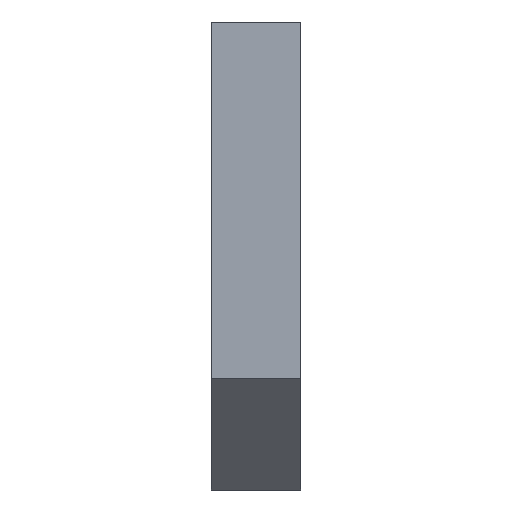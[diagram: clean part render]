
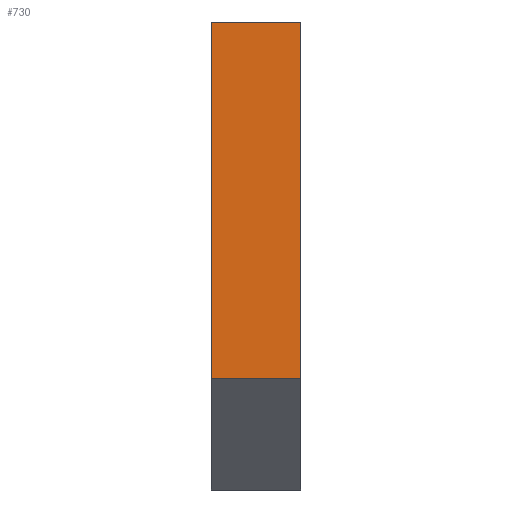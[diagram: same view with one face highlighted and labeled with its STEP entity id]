
A CAD part, left-side view. The second image highlights one B-rep face of the part: STEP entity #730.
In plain terms, the highlighted planar face has unit normal (-1, 0, 0).
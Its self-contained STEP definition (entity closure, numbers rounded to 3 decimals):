
#138 = EDGE_LOOP ( 'NONE', ( #147, #367, #1038, #1120 ) ) ;
#147 = ORIENTED_EDGE ( 'NONE', *, *, #1125, .F. ) ;
#149 = CARTESIAN_POINT ( 'NONE',  ( 0., -8., 10. ) ) ;
#164 = DIRECTION ( 'NONE',  ( 0., -1., 0. ) ) ;
#191 = DIRECTION ( 'NONE',  ( 0., 0., 1. ) ) ;
#233 = DIRECTION ( 'NONE',  ( -1., 0., 0. ) ) ;
#253 = CARTESIAN_POINT ( 'NONE',  ( 0., -8., 42. ) ) ;
#256 = EDGE_CURVE ( 'NONE', #988, #738, #837, .T. ) ;
#261 = CARTESIAN_POINT ( 'NONE',  ( 0., -8., 10. ) ) ;
#280 = LINE ( 'NONE', #634, #893 ) ;
#303 = FACE_OUTER_BOUND ( 'NONE', #138, .T. ) ;
#354 = DIRECTION ( 'NONE',  ( 0., 1., 0. ) ) ;
#367 = ORIENTED_EDGE ( 'NONE', *, *, #256, .T. ) ;
#372 = VERTEX_POINT ( 'NONE', #425 ) ;
#406 = PLANE ( 'NONE',  #645 ) ;
#425 = CARTESIAN_POINT ( 'NONE',  ( 0., 0., 42. ) ) ;
#511 = LINE ( 'NONE', #253, #980 ) ;
#512 = VECTOR ( 'NONE', #164, 1000. ) ;
#616 = EDGE_CURVE ( 'NONE', #738, #777, #511, .T. ) ;
#634 = CARTESIAN_POINT ( 'NONE',  ( 0., 0., 42. ) ) ;
#645 = AXIS2_PLACEMENT_3D ( 'NONE', #875, #233, #786 ) ;
#665 = DIRECTION ( 'NONE',  ( 0., 0., 1. ) ) ;
#728 = VECTOR ( 'NONE', #354, 1000. ) ;
#730 = ADVANCED_FACE ( 'NONE', ( #303 ), #406, .T. ) ;
#738 = VERTEX_POINT ( 'NONE', #149 ) ;
#777 = VERTEX_POINT ( 'NONE', #953 ) ;
#786 = DIRECTION ( 'NONE',  ( 0., 0., 1. ) ) ;
#825 = CARTESIAN_POINT ( 'NONE',  ( 0., 0., 10. ) ) ;
#837 = LINE ( 'NONE', #261, #512 ) ;
#866 = LINE ( 'NONE', #1174, #728 ) ;
#875 = CARTESIAN_POINT ( 'NONE',  ( 0., -8., 42. ) ) ;
#893 = VECTOR ( 'NONE', #191, 1000. ) ;
#953 = CARTESIAN_POINT ( 'NONE',  ( 0., -8., 42. ) ) ;
#970 = EDGE_CURVE ( 'NONE', #777, #372, #866, .T. ) ;
#980 = VECTOR ( 'NONE', #665, 1000. ) ;
#988 = VERTEX_POINT ( 'NONE', #825 ) ;
#1038 = ORIENTED_EDGE ( 'NONE', *, *, #616, .T. ) ;
#1120 = ORIENTED_EDGE ( 'NONE', *, *, #970, .T. ) ;
#1125 = EDGE_CURVE ( 'NONE', #988, #372, #280, .T. ) ;
#1174 = CARTESIAN_POINT ( 'NONE',  ( 0., -8., 42. ) ) ;
